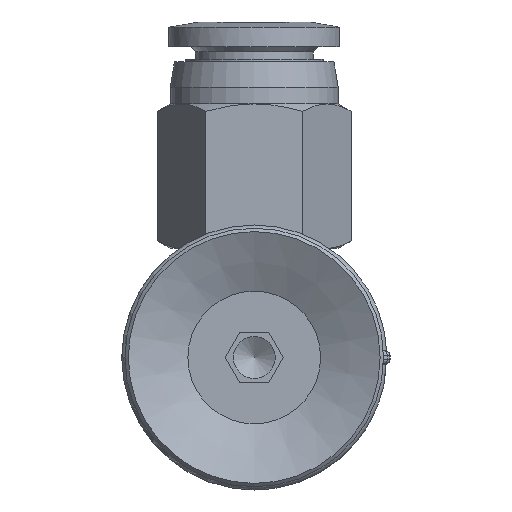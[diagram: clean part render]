
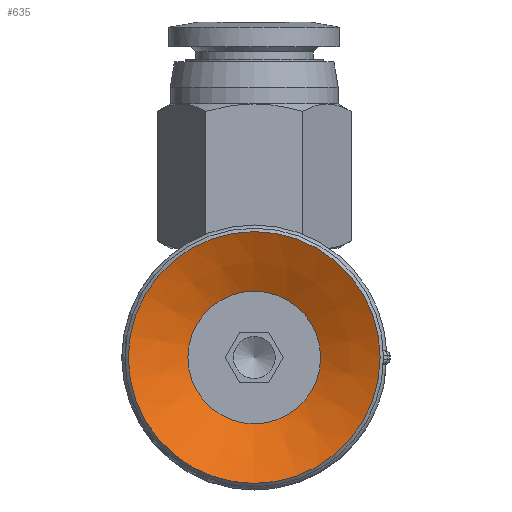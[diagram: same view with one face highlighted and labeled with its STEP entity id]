
A CAD part, front view. The second image highlights one B-rep face of the part: STEP entity #635.
In plain terms, the highlighted conical face has half-angle 64 degrees and reference radius 3.95 mm.
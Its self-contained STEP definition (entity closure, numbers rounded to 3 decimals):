
#635=ADVANCED_FACE('',(#994,#995),#996,.F.);
#994=FACE_BOUND('',#1492,.T.);
#995=FACE_OUTER_BOUND('',#1493,.T.);
#996=CONICAL_SURFACE('',#1494,3.95,1.117);
#1492=EDGE_LOOP('',(#2784));
#1493=EDGE_LOOP('',(#2785));
#1494=AXIS2_PLACEMENT_3D('',#2786,#2787,#2788);
#2784=ORIENTED_EDGE('',*,*,#3446,.F.);
#2785=ORIENTED_EDGE('',*,*,#3447,.T.);
#2786=CARTESIAN_POINT('',(0.0,-29.404,-47.168));
#2787=DIRECTION('',(-0.0,0.,1.0));
#2788=DIRECTION('',(0.0,-1.0,0.));
#3446=EDGE_CURVE('',#3968,#3968,#3969,.T.);
#3447=EDGE_CURVE('',#3970,#3970,#3971,.T.);
#3968=VERTEX_POINT('',#5174);
#3969=CIRCLE('',#5175,3.95);
#3970=VERTEX_POINT('',#5176);
#3971=CIRCLE('',#5177,7.5);
#5174=CARTESIAN_POINT('',(0.0,-33.354,-47.168));
#5175=AXIS2_PLACEMENT_3D('',#6058,#6059,#6060);
#5176=CARTESIAN_POINT('',(0.0,-36.904,-45.437));
#5177=AXIS2_PLACEMENT_3D('',#6061,#6062,#6063);
#6058=CARTESIAN_POINT('',(0.0,-29.404,-47.168));
#6059=DIRECTION('',(0.0,0.,1.0));
#6060=DIRECTION('',(0.0,-1.0,0.));
#6061=CARTESIAN_POINT('',(0.0,-29.404,-45.437));
#6062=DIRECTION('',(0.0,0.,1.0));
#6063=DIRECTION('',(0.0,-1.0,0.));
